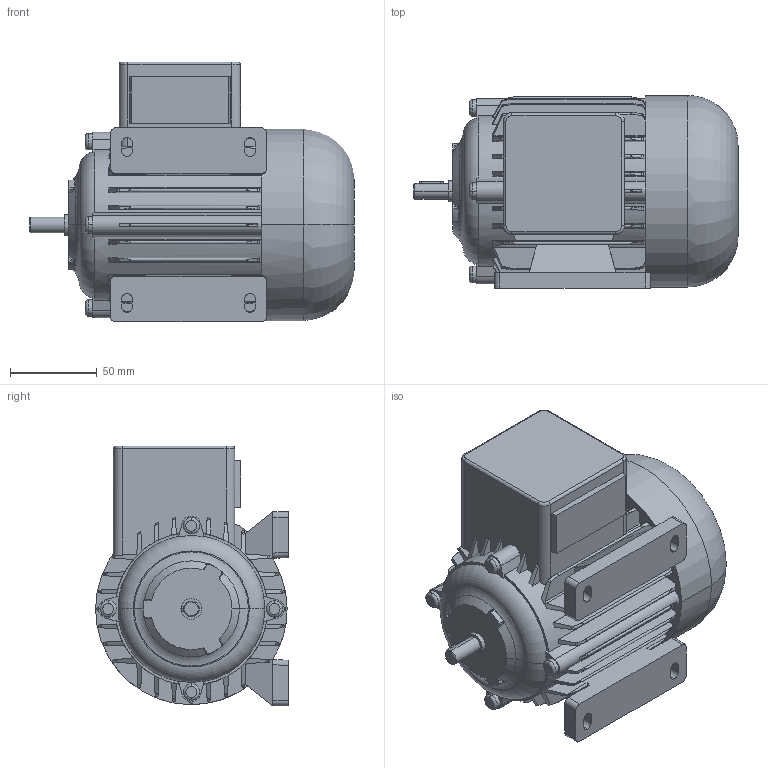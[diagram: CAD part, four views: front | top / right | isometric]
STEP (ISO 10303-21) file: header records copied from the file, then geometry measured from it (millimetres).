
FILE_DESCRIPTION(('OneSpaceDesigner STEP Export'),'2;1');
FILE_NAME('OD5_B3.stp','2008-04-24T11:09:12',(''),(''),'OneSpace Designer STEP processor (Jan. 2003) for AP214(CD)(Solid Model)','OneSpace Designer 12.01D 09-Jul-2004 (C) CoCreate Software GmbH','');
FILE_SCHEMA(('AUTOMOTIVE_DESIGN_CC2 {1 2 10303 214 -1 1 5 1}'));
Length unit declared in the file: millimetre
Products named in the file (2): OD5_B3
Assembly tree (1 placements, depth 2):
  OD5_B3
    OD5_B3
Bounding box: 187 x 111.25 x 150 mm (x, y, z)
Volume: 1524455.1 mm3; surface area: 130611.7 mm2
Topology: 1 solids, 1 shells, 461 faces, 1289 edges, 842 vertices
Faces by surface type: plane 156, cylinder 117, cone 105, torus 62, bspline 21
Entity records: 36214 total; most frequent: CARTESIAN_POINT 25808, ORIENTED_EDGE 2578, DIRECTION 1680, EDGE_CURVE 1289, VERTEX_POINT 842, AXIS2_PLACEMENT_3D 605, EDGE_LOOP 481, VECTOR 470
